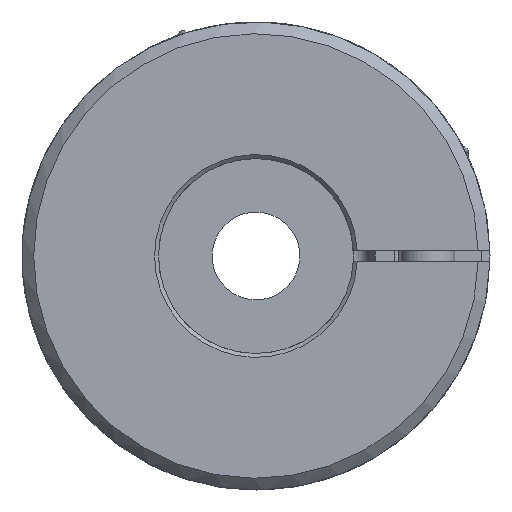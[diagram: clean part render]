
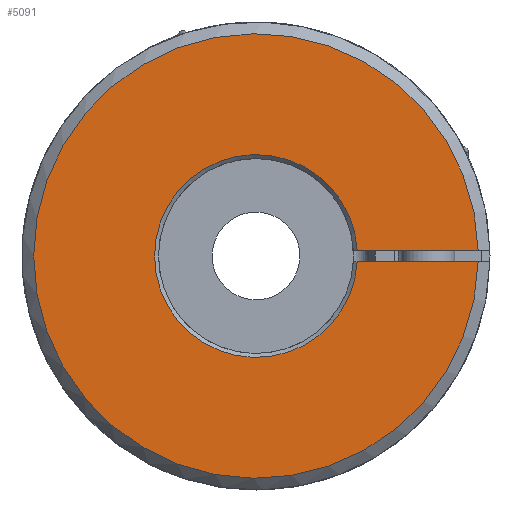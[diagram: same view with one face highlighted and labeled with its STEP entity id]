
A CAD part, left-side view. The second image highlights one B-rep face of the part: STEP entity #5091.
In plain terms, the highlighted planar face has unit normal (-1, 0, 0).
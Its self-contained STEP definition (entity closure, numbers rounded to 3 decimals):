
#45=LINE('',#7418,#173);
#48=LINE('',#7423,#176);
#173=VECTOR('',#5945,1000.);
#176=VECTOR('',#5950,1000.);
#281=PLANE('',#5396);
#410=CIRCLE('',#5272,26.);
#453=CIRCLE('',#5337,57.);
#966=ORIENTED_EDGE('',*,*,#1943,.T.);
#967=ORIENTED_EDGE('',*,*,#1811,.F.);
#968=ORIENTED_EDGE('',*,*,#1946,.T.);
#969=ORIENTED_EDGE('',*,*,#1892,.T.);
#1811=EDGE_CURVE('',#2378,#2380,#410,.T.);
#1892=EDGE_CURVE('',#2442,#2444,#453,.T.);
#1943=EDGE_CURVE('',#2444,#2380,#45,.T.);
#1946=EDGE_CURVE('',#2378,#2442,#48,.T.);
#2378=VERTEX_POINT('',#6838);
#2380=VERTEX_POINT('',#6841);
#2442=VERTEX_POINT('',#7229);
#2444=VERTEX_POINT('',#7236);
#2996=EDGE_LOOP('',(#966,#967,#968,#969));
#3270=FACE_BOUND('',#2996,.T.);
#5091=ADVANCED_FACE('',(#3270),#281,.T.);
#5272=AXIS2_PLACEMENT_3D('',#6840,#5752,#5753);
#5337=AXIS2_PLACEMENT_3D('',#7237,#5882,#5883);
#5396=AXIS2_PLACEMENT_3D('',#7878,#6042,#6043);
#5752=DIRECTION('',(-1.,0.,0.));
#5753=DIRECTION('',(0.,0.,1.));
#5882=DIRECTION('',(-1.,0.,0.));
#5883=DIRECTION('',(0.,0.,1.));
#5945=DIRECTION('',(0.,1.,0.));
#5950=DIRECTION('',(0.,-1.,0.));
#6042=DIRECTION('',(-1.,0.,0.));
#6043=DIRECTION('',(0.,0.,1.));
#6838=CARTESIAN_POINT('',(0.,-25.957,1.5));
#6840=CARTESIAN_POINT('',(0.,0.,0.));
#6841=CARTESIAN_POINT('',(0.,-25.957,-1.5));
#7229=CARTESIAN_POINT('',(0.,-56.98,1.5));
#7236=CARTESIAN_POINT('',(0.,-56.98,-1.5));
#7237=CARTESIAN_POINT('',(0.,0.,0.));
#7418=CARTESIAN_POINT('',(0.,-65.,-1.5));
#7423=CARTESIAN_POINT('',(0.,-5.,1.5));
#7878=CARTESIAN_POINT('',(0.,0.,25.));
